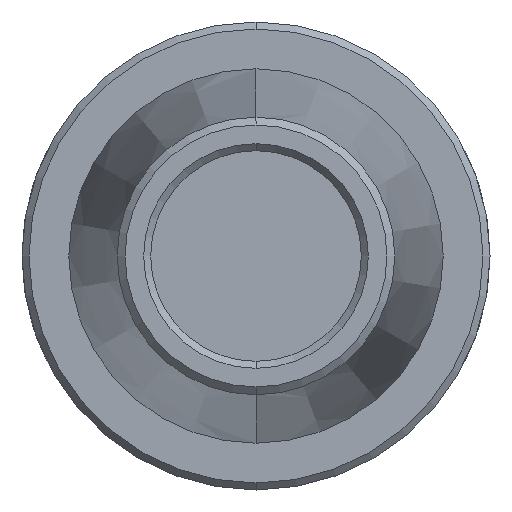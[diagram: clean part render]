
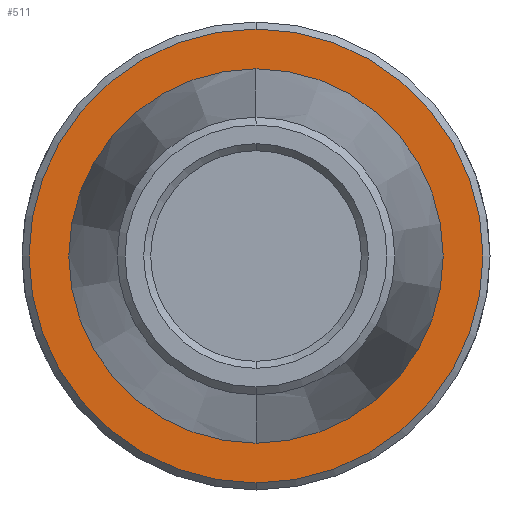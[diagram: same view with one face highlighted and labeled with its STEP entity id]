
A CAD part, front view. The second image highlights one B-rep face of the part: STEP entity #511.
In plain terms, the highlighted planar face has unit normal (0, -1, 0).
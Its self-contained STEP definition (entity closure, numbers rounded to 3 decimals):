
#11 = AXIS2_PLACEMENT_3D ( 'NONE', #876, #166, #715 ) ;
#53 = VERTEX_POINT ( 'NONE', #904 ) ;
#88 = EDGE_LOOP ( 'NONE', ( #233, #545 ) ) ;
#105 = ORIENTED_EDGE ( 'NONE', *, *, #774, .F. ) ;
#164 = CARTESIAN_POINT ( 'NONE',  ( 0., 0., 0. ) ) ;
#166 = DIRECTION ( 'NONE',  ( 0., 1., 0. ) ) ;
#199 = AXIS2_PLACEMENT_3D ( 'NONE', #473, #640, #410 ) ;
#208 = DIRECTION ( 'NONE',  ( 0., 0., 1. ) ) ;
#233 = ORIENTED_EDGE ( 'NONE', *, *, #721, .T. ) ;
#255 = CIRCLE ( 'NONE', #901, 8. ) ;
#267 = VERTEX_POINT ( 'NONE', #948 ) ;
#310 = EDGE_CURVE ( 'NONE', #960, #608, #762, .T. ) ;
#363 = EDGE_CURVE ( 'NONE', #53, #267, #255, .T. ) ;
#410 = DIRECTION ( 'NONE',  ( 0., 0., 1. ) ) ;
#411 = EDGE_LOOP ( 'NONE', ( #812, #105 ) ) ;
#415 = DIRECTION ( 'NONE',  ( 0., -1., 0. ) ) ;
#473 = CARTESIAN_POINT ( 'NONE',  ( 0., 0., 0. ) ) ;
#493 = PLANE ( 'NONE',  #11 ) ;
#507 = AXIS2_PLACEMENT_3D ( 'NONE', #516, #742, #985 ) ;
#511 = ADVANCED_FACE ( 'NONE', ( #736, #903 ), #493, .F. ) ;
#516 = CARTESIAN_POINT ( 'NONE',  ( 0., 0., 0. ) ) ;
#545 = ORIENTED_EDGE ( 'NONE', *, *, #310, .T. ) ;
#595 = DIRECTION ( 'NONE',  ( 0., -1., 0. ) ) ;
#608 = VERTEX_POINT ( 'NONE', #656 ) ;
#629 = CARTESIAN_POINT ( 'NONE',  ( 0., 0., -9.7 ) ) ;
#640 = DIRECTION ( 'NONE',  ( 0., -1., 0. ) ) ;
#656 = CARTESIAN_POINT ( 'NONE',  ( 0., 0., 9.7 ) ) ;
#688 = CIRCLE ( 'NONE', #507, 8. ) ;
#711 = CIRCLE ( 'NONE', #840, 9.7 ) ;
#715 = DIRECTION ( 'NONE',  ( 0., 0., 1. ) ) ;
#721 = EDGE_CURVE ( 'NONE', #608, #960, #711, .T. ) ;
#736 = FACE_OUTER_BOUND ( 'NONE', #88, .T. ) ;
#742 = DIRECTION ( 'NONE',  ( 0., -1., 0. ) ) ;
#762 = CIRCLE ( 'NONE', #199, 9.7 ) ;
#774 = EDGE_CURVE ( 'NONE', #267, #53, #688, .T. ) ;
#812 = ORIENTED_EDGE ( 'NONE', *, *, #363, .F. ) ;
#840 = AXIS2_PLACEMENT_3D ( 'NONE', #908, #595, #208 ) ;
#876 = CARTESIAN_POINT ( 'NONE',  ( 0., 0., 0. ) ) ;
#901 = AXIS2_PLACEMENT_3D ( 'NONE', #164, #415, #954 ) ;
#903 = FACE_BOUND ( 'NONE', #411, .T. ) ;
#904 = CARTESIAN_POINT ( 'NONE',  ( 0., 0., -8. ) ) ;
#908 = CARTESIAN_POINT ( 'NONE',  ( 0., 0., 0. ) ) ;
#948 = CARTESIAN_POINT ( 'NONE',  ( 0., 0., 8. ) ) ;
#954 = DIRECTION ( 'NONE',  ( 0., 0., 1. ) ) ;
#960 = VERTEX_POINT ( 'NONE', #629 ) ;
#985 = DIRECTION ( 'NONE',  ( 0., 0., 1. ) ) ;
